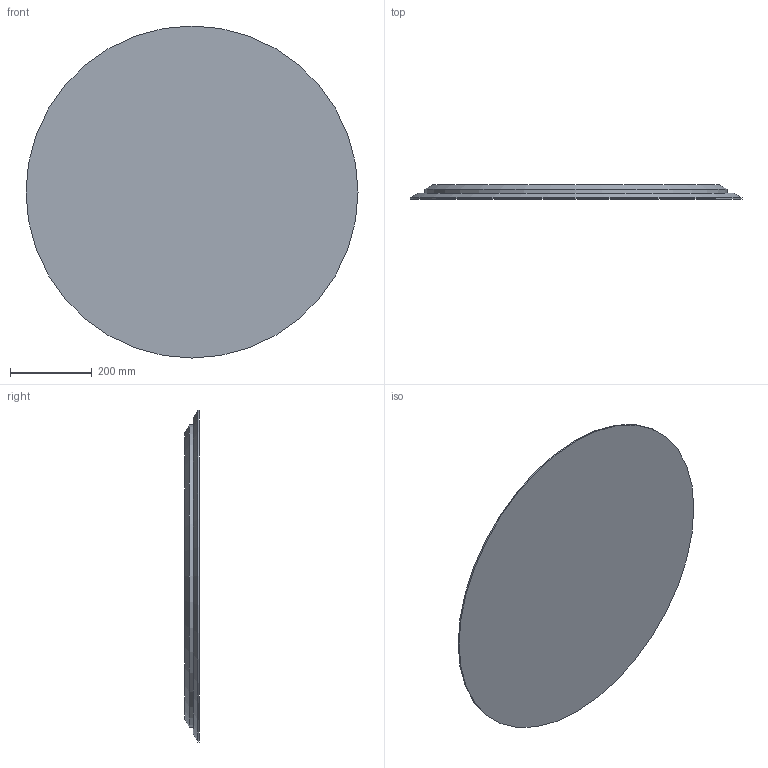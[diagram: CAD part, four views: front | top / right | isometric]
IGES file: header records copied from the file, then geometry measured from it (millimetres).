
Start section: Data from Parasolid IGES Translator 19.0.9, Copyright(c) 2006 Siemens PL M Software. All Rights Reserved.
Global section: file name: noorth-mirror-H 81 D 5,1 W 81_5628.igs; native system: By Siemens PLM Incorporated; preprocessor: XPlus GENERIC/IGES 19.0.9; author: Noname; organization: Noname; date: 20200626.103458; units: metre
Bounding box: 810 x 35 x 810 mm (x, y, z)
Volume: 15678051.6 mm3; surface area: 2197554.9 mm2
Topology: 2 solids, 2 shells, 10 faces, 13 edges, 9 vertices
Faces by surface type: plane 5, cylinder 2, cone 2, extrusion 1
Full cylindrical faces by diameter (mm): 737.254 x1, 810 x1
